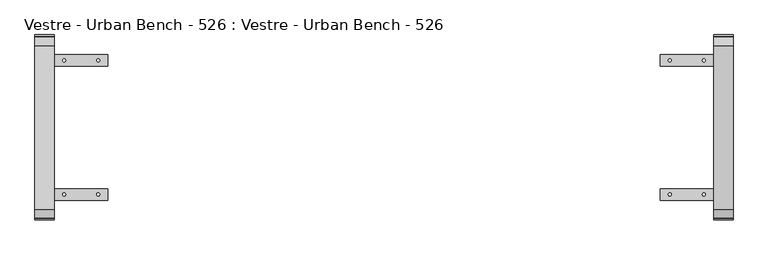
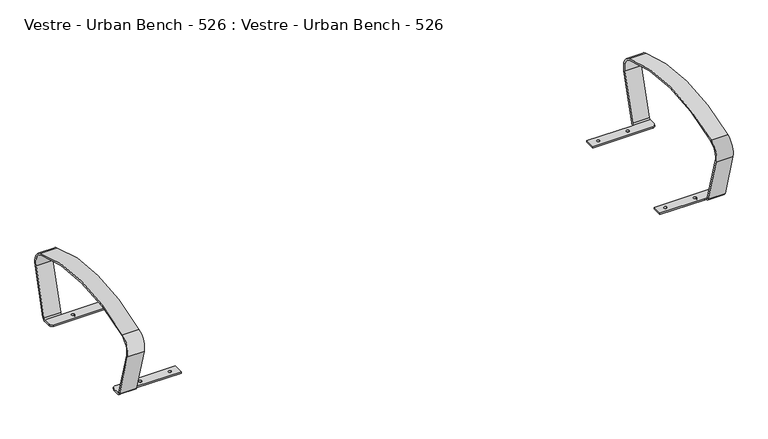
"""IFC4 building model written with IfcOpenShell, lengths in millimetres: furniture geometry, Vestre - Urban Bench - 526 : Vestre - Urban Bench - 526."""

import ifcopenshell
import ifcopenshell.guid

model = None  # the IFC model being written
_history = None  # IfcOwnerHistory: only IFC2X3 demands one
_inside = {}  # id of a spatial element -> (the spatial element, [elements in it])
_under = {}  # id of a project, library or spatial element -> (it, [spatial elements below it])
_declared = {}  # id of a project -> (the project, [libraries it declares])
_typed = {}  # id of a type object -> (the type object, [elements of that type])
_made_of = {}  # id of a material, layer set ... -> (it, [elements and type objects made of it])


def new_model(schema):
    """Start an empty IFC model of exactly this schema.

    Asked for "IFC4X3", IfcOpenShell would pick the latest addendum, in which some entities
    have other attributes; the version numbers below select the first issue.
    IFC2X3 requires an IfcOwnerHistory on every rooted entity: one is made here for all.
    """
    global model, _history
    if schema == "IFC4X3":
        model = ifcopenshell.file(schema_version=(4, 3, 0, 0))
    else:
        model = ifcopenshell.file(schema=schema)
    _inside.clear()
    _under.clear()
    _declared.clear()
    _typed.clear()
    _made_of.clear()
    _history = None
    if model.schema == "IFC2X3":
        org = make("IfcOrganization", Name="unknown")
        user = make(
            "IfcPersonAndOrganization",
            ThePerson=make("IfcPerson", FamilyName="unknown"),
            TheOrganization=org,
        )
        app = make(
            "IfcApplication",
            ApplicationDeveloper=org,
            Version="unknown",
            ApplicationFullName="unknown",
            ApplicationIdentifier="unknown",
        )
        _history = make(
            "IfcOwnerHistory",
            OwningUser=user,
            OwningApplication=app,
            ChangeAction="ADDED",
            CreationDate=0,
        )
    return model


def make(cls, **values):
    """One entity of the class cls with the attributes given. An attribute that is None is left unset."""
    return model.create_entity(
        cls, **{name: value for name, value in values.items() if value is not None}
    )


def rooted(cls, **values):
    """An entity with a GlobalId (a new one), such as an element, a storey or a relation."""
    return make(cls, GlobalId=ifcopenshell.guid.new(), OwnerHistory=_history, **values)


def si_unit(unit_type, name, prefix=None):
    """IfcSIUnit, for example si_unit("LENGTHUNIT", "METRE", prefix="MILLI")."""
    return make("IfcSIUnit", UnitType=unit_type, Prefix=prefix, Name=name)


def assignment(units):
    """IfcUnitAssignment: the units of a project."""
    return None if units is None else make("IfcUnitAssignment", Units=units)


def point(xyz):
    """IfcCartesianPoint."""
    return None if xyz is None else make("IfcCartesianPoint", Coordinates=xyz)


def direction(xyz):
    """IfcDirection."""
    return None if xyz is None else make("IfcDirection", DirectionRatios=xyz)


def frame(location, z_axis=None, x_axis=None):
    """IfcAxis2Placement3D, a coordinate frame: its origin and axes. An axis left out is left unset."""
    return make(
        "IfcAxis2Placement3D",
        Location=point(location),
        Axis=direction(z_axis),
        RefDirection=direction(x_axis),
    )


def origin():
    """The frame at (0, 0, 0) with its axes left unset."""
    return frame((0.0, 0.0, 0.0))


def place(relative_to, where):
    """IfcLocalPlacement: puts the frame where relative to a parent placement (None: the world)."""
    return make(
        "IfcLocalPlacement", PlacementRelTo=relative_to, RelativePlacement=where
    )


def context(
    kind, dimensions, precision=None, world=None, true_north=None, identifier=None
):
    """IfcGeometricRepresentationContext, for example the 3D "Model" context."""
    return make(
        "IfcGeometricRepresentationContext",
        ContextIdentifier=identifier,
        ContextType=kind,
        CoordinateSpaceDimension=dimensions,
        Precision=precision,
        WorldCoordinateSystem=world,
        TrueNorth=true_north,
    )


def project(units=None, contexts=None):
    """IfcProject with its units and contexts."""
    return rooted(
        "IfcProject",
        Name="project",
        RepresentationContexts=contexts,
        UnitsInContext=assignment(units),
    )


def spatial(cls, under=None, at=None, **own):
    """A site, building, storey or space (cls), placed at a placement, below another one or the project."""
    s = rooted(cls, ObjectPlacement=at, **own)
    if under is not None:
        _under.setdefault(under.id(), (under, []))[1].append(s)
    return s


def polyline(points):
    """IfcPolyline through the points."""
    return make("IfcPolyline", Points=[point(p) for p in points])


def circle_curve(where, radius):
    """IfcCircle in the frame where."""
    return make("IfcCircle", Position=where, Radius=radius)


def shape(context_of_items, identifier, shape_type, items):
    """IfcShapeRepresentation: the items that make up one representation, for example the "Body"."""
    return make(
        "IfcShapeRepresentation",
        ContextOfItems=context_of_items,
        RepresentationIdentifier=identifier,
        RepresentationType=shape_type,
        Items=items,
    )


def source(mapping_origin, context_of_items, identifier, shape_type, items):
    """IfcRepresentationMap: a shape defined once, which mapped items show again and again."""
    return make(
        "IfcRepresentationMap",
        MappingOrigin=mapping_origin,
        MappedRepresentation=shape(context_of_items, identifier, shape_type, items),
    )


def transform(
    local_origin,
    x_axis=None,
    y_axis=None,
    z_axis=None,
    scale=None,
    scale2=None,
    scale3=None,
    uniform=True,
):
    """IfcCartesianTransformationOperator3D, or its non-uniform kind. x_axis, y_axis, z_axis: its Axis1, 2, 3."""
    if uniform:
        return make(
            "IfcCartesianTransformationOperator3D",
            Axis1=direction(x_axis),
            Axis2=direction(y_axis),
            LocalOrigin=point(local_origin),
            Scale=scale,
            Axis3=direction(z_axis),
        )
    return make(
        "IfcCartesianTransformationOperator3DnonUniform",
        Axis1=direction(x_axis),
        Axis2=direction(y_axis),
        LocalOrigin=point(local_origin),
        Scale=scale,
        Axis3=direction(z_axis),
        Scale2=scale2,
        Scale3=scale3,
    )


def mapped(mapping_source, mapping_target):
    """IfcMappedItem: shows the shape of a source again, moved by a transform."""
    return make(
        "IfcMappedItem", MappingSource=mapping_source, MappingTarget=mapping_target
    )


def made_of(thing, what):
    """Note that an element or type object is made of a material, layer set ...; save() writes the relation."""
    if what is not None:
        _made_of.setdefault(what.id(), (what, []))[1].append(thing)
    return thing


def element(
    cls,
    number,
    at=None,
    inside=None,
    cuts=None,
    type_object=None,
    material=None,
    context=None,
    identifier="Body",
    shape_type=None,
    held_by="IfcProductDefinitionShape",
    body=None,
    shapes=None,
    **own,
):
    """One element of the class cls, such as IfcWall. Its Tag is "e" and its number.

    at: its placement. inside: the storey or other place that contains it. cuts: it is an
    opening in that element (IfcRelVoidsElement). A single representation is given by context,
    identifier, shape_type and body (its items); several are given by shapes. held_by: the class
    of the entity that holds the representations. save() writes the other relations.
    """
    e = rooted(cls, Tag="e%d" % number, ObjectPlacement=at, **own)
    if body is not None:
        shapes = [shape(context, identifier, shape_type, body)]
    if shapes is not None:
        e.Representation = make(held_by, Representations=shapes)
    if inside is not None:
        _inside.setdefault(inside.id(), (inside, []))[1].append(e)
    if cuts is not None:
        rooted(
            "IfcRelVoidsElement", RelatingBuildingElement=cuts, RelatedOpeningElement=e
        )
    if type_object is not None:
        _typed.setdefault(type_object.id(), (type_object, []))[1].append(e)
    return made_of(e, material)


def aggregate(whole, parts):
    """IfcRelAggregates: a whole, such as a stair, and the parts it consists of."""
    return rooted("IfcRelAggregates", RelatingObject=whole, RelatedObjects=parts)


def save(model, path):
    """Write the relations noted so far, then the file.

    IfcRelAggregates (storeys below a building ...), IfcRelContainedInSpatialStructure (elements
    in a storey), IfcRelDefinesByType, IfcRelAssociatesMaterial and IfcRelDeclares: one each for
    every whole, place, type object, material and project.
    """
    for whole, parts in _under.values():
        aggregate(whole, parts)
    for where, things in _inside.values():
        rooted(
            "IfcRelContainedInSpatialStructure",
            RelatedElements=things,
            RelatingStructure=where,
        )
    for kind, things in _typed.values():
        rooted("IfcRelDefinesByType", RelatedObjects=things, RelatingType=kind)
    for what, things in _made_of.values():
        rooted("IfcRelAssociatesMaterial", RelatedObjects=things, RelatingMaterial=what)
    for by, libraries in _declared.values():
        rooted("IfcRelDeclares", RelatingContext=by, RelatedDefinitions=libraries)
    model.write(path)


def plane_surface(at):
    """IfcPlane: the flat surface through the origin of the frame at, square to its z axis."""
    return make("IfcPlane", Position=at)


def cylinder_surface(at, radius):
    """IfcCylindricalSurface: all points at the distance radius from the z axis of the frame at."""
    return make("IfcCylindricalSurface", Position=at, Radius=radius)


def revolved_surface(curve, axis_point, axis_direction):
    """IfcSurfaceOfRevolution: the curve turned about the line through axis_point along axis_direction."""
    return make(
        "IfcSurfaceOfRevolution",
        SweptCurve=make("IfcArbitraryOpenProfileDef", ProfileType="CURVE", Curve=curve),
        AxisPosition=make("IfcAxis1Placement", Location=point(axis_point), Axis=direction(axis_direction)),
    )


def advanced_brep(points, edges, surfaces, faces):
    """IfcAdvancedBrep: a solid bounded by faces that lie on surfaces and meet in shared edges.

    An edge is (start, end): straight between two places in points (the first is 0);
    or (start, end, curve); or (start, end, curve, False) where it runs against its curve.
    A face is (place in surfaces, loops), or (place, loops, False) where it looks against
    its surface's normal. A loop lists edges by number (the first is 1), with a minus sign
    where the edge is run from its end to its start. The first loop is the outer one.
    """
    corners = [point(p) for p in points]
    vertices = [make("IfcVertexPoint", VertexGeometry=c) for c in corners]
    made = []
    for start, end, *more in edges:
        made.append(
            make(
                "IfcEdgeCurve",
                EdgeStart=vertices[start],
                EdgeEnd=vertices[end],
                EdgeGeometry=more[0] if more else make("IfcPolyline", Points=[corners[start], corners[end]]),
                SameSense=more[1] if len(more) > 1 else True,
            )
        )
    hull = []
    for where, loops, *sense in faces:
        bounds = []
        for j, loop in enumerate(loops):
            ring = [make("IfcOrientedEdge", EdgeElement=made[abs(k) - 1], Orientation=k > 0) for k in loop]
            bounds.append(
                make(
                    "IfcFaceOuterBound" if j == 0 else "IfcFaceBound",
                    Bound=make("IfcEdgeLoop", EdgeList=ring),
                    Orientation=True,
                )
            )
        hull.append(make("IfcAdvancedFace", Bounds=bounds, FaceSurface=surfaces[where], SameSense=sense[0] if sense else True))
    return make("IfcAdvancedBrep", Outer=make("IfcClosedShell", CfsFaces=hull))


def vestre_urban_bench_526_vestre_urban_bench_526_43ba36d0(model_context):
    return source(origin(), model_context, "Body", "AdvancedBrep", [
        advanced_brep(
        [(720.0, 159.9998724, 412.0003662), (900.0, 159.9998724, 412.0003662), (910.0, 169.9998724, 412.0003662), (910.0, 190.1231897, 412.0003662), (860.0, 190.1234449, 412.0003662), (855.0, 190.1231897, 412.0003662), (720.0, 190.1231897, 412.0003662), (749.0142908, 175.0931821, 412.0003662), (741.0142908, 175.0931821, 412.0003662), (837.9750394, 175.0931821, 412.0003662), (829.9750394, 175.0931821, 412.0003662), (720.0, 159.9998724, 407.0003662), (720.0, 190.1231897, 407.0003662), (855.0, 190.1231897, 407.0003662), (860.0, 190.1231897, 407.0003662), (910.0, 190.1234449, 407.0003662), (910.0, 169.9998724, 407.0003662), (900.0, 159.9998724, 407.0003662), (741.0142908, 175.0931821, 407.0003662), (749.0142908, 175.0931821, 407.0003662), (829.9750394, 175.0931821, 407.0003662), (837.9750394, 175.0931821, 407.0003662), (910.0, 199.7379838, 414.2507042), (910.0, 240.2655528, 555.9604443), (910.0, 213.6012512, 610.159785), (910.0, -213.600996, 610.159785), (910.0, -240.2652976, 555.9604443), (910.0, -199.7377286, 414.2507042), (910.0, -190.1231897, 407.0003662), (910.0, -169.9998724, 407.0003662), (910.0, -169.9998724, 412.0003662), (910.0, -190.1231897, 412.0003662), (910.0, -194.9304591, 415.6255352), (910.0, -235.4580281, 557.3352754), (910.0, -211.7564267, 605.512467), (910.0, 211.7566819, 605.512467), (910.0, 235.4582833, 557.3352754), (910.0, 194.9307143, 415.6255352), (741.0142908, -175.0931821, 407.0003662), (741.0142908, -175.0931821, 412.0), (749.0142908, -175.0931821, 412.0003662), (749.0142908, -175.0931821, 407.0003662), (829.9750394, -175.0931821, 407.0003662), (829.9750394, -175.0931821, 412.0), (837.9750394, -175.0931821, 412.0003662), (837.9750394, -175.0931821, 407.0003662), (860.0, 235.4582833, 557.3352754), (860.0, 211.7566819, 605.512467), (860.0, -211.7564267, 605.512467), (860.0, -235.4580281, 557.3352754), (860.0, -194.9304591, 415.6255352), (860.0, -190.1231897, 412.0003662), (860.0, -190.1231897, 407.0003662), (860.0, -199.7377286, 414.2507042), (860.0, -240.2652976, 555.9604443), (860.0, -213.600996, 610.159785), (860.0, 213.6012512, 610.159785), (860.0, 240.2655528, 555.9604443), (860.0, 199.7379838, 414.2507042), (860.0, 194.9307143, 415.6255352), (720.0, -159.9998724, 412.0003662), (720.0, -190.1231897, 412.0003662), (855.0, -190.1231897, 412.0003662), (900.0, -159.9998724, 412.0003662), (720.0, -159.9998724, 407.0003662), (900.0, -159.9998724, 407.0003662), (855.0, -190.1231897, 407.0003662), (720.0, -190.1231897, 407.0003662)],
        [
            (0, 1),
            (1, 2, circle_curve(frame((900.0, 169.9998724, 412.0003662), z_axis=(0.0, 0.0, 1.0), x_axis=(1.0, 0.0, 0.0)), 10.0)),
            (2, 3),
            (3, 4),
            (4, 5),
            (5, 6),
            (6, 0),
            (7, 8, circle_curve(frame((745.0142908, 175.0931821, 412.0003662), z_axis=(0.0, 0.0, -1.0), x_axis=(-1.0, 0.0, 0.0)), 4.0)),
            (8, 7, circle_curve(frame((745.0142908, 175.0931821, 412.0003662), z_axis=(0.0, 0.0, -1.0), x_axis=(-1.0, 0.0, 0.0)), 4.0)),
            (9, 10, circle_curve(frame((833.9750394, 175.0931821, 412.0003662), z_axis=(0.0, 0.0, -1.0), x_axis=(-1.0, 0.0, 0.0)), 4.0)),
            (10, 9, circle_curve(frame((833.9750394, 175.0931821, 412.0003662), z_axis=(0.0, 0.0, -1.0), x_axis=(-1.0, 0.0, 0.0)), 4.0)),
            (11, 12),
            (12, 13),
            (13, 14),
            (14, 15),
            (15, 16),
            (16, 17, circle_curve(frame((900.0, 169.9998724, 407.0003662), z_axis=(0.0, 0.0, -1.0), x_axis=(1.0, 0.0, 0.0)), 10.0)),
            (17, 11),
            (18, 19, circle_curve(frame((745.0142908, 175.0931821, 407.0003662), z_axis=(0.0, 0.0, 1.0), x_axis=(-1.0, 0.0, 0.0)), 4.0)),
            (19, 18, circle_curve(frame((745.0142908, 175.0931821, 407.0003662), z_axis=(0.0, 0.0, 1.0), x_axis=(-1.0, 0.0, 0.0)), 4.0)),
            (20, 21, circle_curve(frame((833.9750394, 175.0931821, 407.0003662), z_axis=(0.0, 0.0, 1.0), x_axis=(-1.0, 0.0, 0.0)), 4.0)),
            (21, 20, circle_curve(frame((833.9750394, 175.0931821, 407.0003662), z_axis=(0.0, 0.0, 1.0), x_axis=(-1.0, 0.0, 0.0)), 4.0)),
            (0, 11),
            (17, 1),
            (16, 2),
            (15, 22, circle_curve(frame((910.0, 190.1234449, 417.0003662), z_axis=(1.0, 0.0, 0.0), x_axis=(0.0, 0.961453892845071, -0.2749662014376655)), 10.0)),
            (22, 23),
            (23, 24, circle_curve(frame((910.0, 197.0001276, 568.3339234), z_axis=(1.0, 0.0, 0.0), x_axis=(0.0, 0.3689138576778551, 0.9294635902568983)), 45.0)),
            (24, 25, circle_curve(frame((910.0, 0.0001276, 72.0003662), z_axis=(1.0, 0.0, 0.0), x_axis=(0.0, -0.36891385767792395, 0.929463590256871)), 579.0)),
            (25, 26, circle_curve(frame((910.0, -196.9998724, 568.3339234), z_axis=(1.0, 0.0, 0.0), x_axis=(0.0, -0.9614538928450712, -0.2749662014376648)), 45.0)),
            (26, 27),
            (27, 28, circle_curve(frame((910.0, -190.1231897, 417.0003662), z_axis=(1.0, 0.0, 0.0), x_axis=(0.0, 0.0, -1.0)), 10.0)),
            (28, 29),
            (29, 30),
            (30, 31),
            (31, 32, circle_curve(frame((910.0, -190.1231897, 417.0003662), z_axis=(-1.0, 0.0, 0.0), x_axis=(0.0, 0.0, -1.0)), 5.0)),
            (32, 33),
            (33, 34, circle_curve(frame((910.0, -196.9998724, 568.3339234), z_axis=(-1.0, 0.0, 0.0), x_axis=(0.0, -0.9614538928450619, -0.27496620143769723)), 40.0)),
            (34, 35, circle_curve(frame((910.0, 0.0001276, 72.0003662), z_axis=(-1.0, 0.0, 0.0), x_axis=(0.0, -0.36891385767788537, 0.9294635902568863)), 574.0)),
            (35, 36, circle_curve(frame((910.0, 197.0001276, 568.3339234), z_axis=(-1.0, 0.0, 0.0), x_axis=(0.0, 0.36891385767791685, 0.9294635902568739)), 40.0)),
            (36, 37),
            (37, 3, circle_curve(frame((910.0, 190.1234449, 417.0003662), z_axis=(-1.0, 0.0, 0.0), x_axis=(0.0, 0.961453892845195, -0.27496620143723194)), 5.0)),
            (13, 5),
            (4, 14),
            (12, 6),
            (38, 39),
            (39, 40, circle_curve(frame((745.0142908, -175.0931821, 412.0003662), z_axis=(0.0, 0.0, 1.0), x_axis=(-1.0, 0.0, 0.0)), 4.0)),
            (40, 41),
            (41, 38, circle_curve(frame((745.0142908, -175.0931821, 407.0003662), z_axis=(0.0, 0.0, -1.0), x_axis=(-1.0, 0.0, 0.0)), 4.0)),
            (38, 41, circle_curve(frame((745.0142908, -175.0931821, 407.0003662), z_axis=(0.0, 0.0, -1.0), x_axis=(-1.0, 0.0, 0.0)), 4.0)),
            (40, 39, circle_curve(frame((745.0142908, -175.0931821, 412.0003662), z_axis=(0.0, 0.0, 1.0), x_axis=(-1.0, 0.0, 0.0)), 4.0)),
            (42, 43),
            (43, 44, circle_curve(frame((833.9750394, -175.0931821, 412.0003662), z_axis=(0.0, 0.0, 1.0), x_axis=(-1.0, 0.0, 0.0)), 4.0)),
            (44, 45),
            (45, 42, circle_curve(frame((833.9750394, -175.0931821, 407.0003662), z_axis=(0.0, 0.0, -1.0), x_axis=(-1.0, 0.0, 0.0)), 4.0)),
            (42, 45, circle_curve(frame((833.9750394, -175.0931821, 407.0003662), z_axis=(0.0, 0.0, -1.0), x_axis=(-1.0, 0.0, 0.0)), 4.0)),
            (44, 43, circle_curve(frame((833.9750394, -175.0931821, 412.0003662), z_axis=(0.0, 0.0, 1.0), x_axis=(-1.0, 0.0, 0.0)), 4.0)),
            (18, 8),
            (7, 19),
            (20, 10),
            (9, 21),
            (46, 47, circle_curve(frame((860.0, 197.0001276, 568.3339234), z_axis=(1.0, 0.0, 0.0), x_axis=(0.0, 0.36891385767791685, 0.9294635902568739)), 40.0)),
            (47, 48, circle_curve(frame((860.0, 0.0001276, 72.0003662), z_axis=(1.0, 0.0, 0.0), x_axis=(0.0, -0.36891385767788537, 0.9294635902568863)), 574.0)),
            (48, 49, circle_curve(frame((860.0, -196.9998724, 568.3339234), z_axis=(1.0, 0.0, 0.0), x_axis=(0.0, -0.9614538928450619, -0.27496620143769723)), 40.0)),
            (49, 50),
            (50, 51, circle_curve(frame((860.0, -190.1231897, 417.0003662), z_axis=(1.0, 0.0, 0.0), x_axis=(0.0, 0.0, -1.0)), 5.0)),
            (51, 52),
            (52, 53, circle_curve(frame((860.0, -190.1231897, 417.0003662), z_axis=(-1.0, 0.0, 0.0), x_axis=(0.0, 0.0, -1.0)), 10.0)),
            (53, 54),
            (54, 55, circle_curve(frame((860.0, -196.9998724, 568.3339234), z_axis=(-1.0, 0.0, 0.0), x_axis=(0.0, -0.9614538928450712, -0.2749662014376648)), 45.0)),
            (55, 56, circle_curve(frame((860.0, 0.0001276, 72.0003662), z_axis=(-1.0, 0.0, 0.0), x_axis=(0.0, -0.36891385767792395, 0.929463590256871)), 579.0)),
            (56, 57, circle_curve(frame((860.0, 197.0001276, 568.3339234), z_axis=(-1.0, 0.0, 0.0), x_axis=(0.0, 0.3689138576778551, 0.9294635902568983)), 45.0)),
            (57, 58),
            (58, 14, circle_curve(frame((860.0, 190.1234449, 417.0003662), z_axis=(-1.0, 0.0, 0.0), x_axis=(0.0, 0.961453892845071, -0.2749662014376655)), 10.0)),
            (4, 59, circle_curve(frame((860.0, 190.1234449, 417.0003662), z_axis=(1.0, 0.0, 0.0), x_axis=(0.0, 0.961453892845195, -0.27496620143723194)), 5.0)),
            (59, 46),
            (59, 37),
            (36, 46),
            (58, 22),
            (57, 23),
            (56, 24),
            (55, 25),
            (54, 26),
            (53, 27),
            (52, 28),
            (50, 32),
            (31, 51),
            (49, 33),
            (48, 34),
            (47, 35),
            (60, 61),
            (61, 62),
            (62, 51),
            (30, 63, circle_curve(frame((900.0, -169.9998724, 412.0003662), z_axis=(0.0, 0.0, 1.0), x_axis=(1.0, 0.0, 0.0)), 10.0)),
            (63, 60),
            (64, 65),
            (65, 29, circle_curve(frame((900.0, -169.9998724, 407.0003662), z_axis=(0.0, 0.0, -1.0), x_axis=(1.0, 0.0, 0.0)), 10.0)),
            (52, 66),
            (66, 67),
            (67, 64),
            (63, 65),
            (64, 60),
            (62, 66),
            (61, 67),
        ],
        [
            plane_surface(frame((720.0, 159.9998724, 412.0003662), z_axis=(0.0, 0.0, 1.0), x_axis=(1.0, 0.0, 0.0))),
            plane_surface(frame((720.0, 159.9998724, 407.0003662), z_axis=(0.0, 0.0, -1.0), x_axis=(-1.0, 0.0, 0.0))),
            plane_surface(frame((720.0, 159.9998724, 412.0003662), z_axis=(0.0, -1.0, 0.0), x_axis=(0.0, 0.0, -1.0))),
            cylinder_surface(frame((900.0, 169.9998724, 407.0003662), z_axis=(0.0, 0.0, 1.0), x_axis=(1.0, 0.0, 0.0)), 10.0),
            plane_surface(frame((910.0, 169.9998724, 412.0003662), z_axis=(1.0, 0.0, 0.0), x_axis=(0.0, 0.0, -1.0))),
            plane_surface(frame((910.0, 190.1231897, 412.0003662), z_axis=(0.0, 1.0, 0.0), x_axis=(0.0, 0.0, -1.0))),
            plane_surface(frame((855.0, 190.1231897, 412.0003662), z_axis=(0.0, 1.0, 0.0), x_axis=(0.0, 0.0, -1.0))),
            plane_surface(frame((720.0, 190.1231897, 412.0003662), z_axis=(-1.0, 0.0, 0.0), x_axis=(0.0, 0.0, -1.0))),
            revolved_surface(polyline([(741.0142908, -175.0931821, 412.0003662), (741.0142908, -175.0931821, 407.0003662)]), (745.0142908, -175.0931821, 403.3920941), (0.0, 0.0, 1.0)),
            revolved_surface(polyline([(829.9750394, -175.0931821, 412.0003662), (829.9750394, -175.0931821, 407.0003662)]), (833.9750394, -175.0931821, 0.0), (0.0, 0.0, 1.0)),
            revolved_surface(polyline([(741.0142908, 175.0931821, 412.0003662), (741.0142908, 175.0931821, 407.0003662)]), (745.0142908, 175.0931821, 0.0), (0.0, 0.0, 1.0)),
            revolved_surface(polyline([(829.9750394, 175.0931821, 412.0003662), (829.9750394, 175.0931821, 407.0003662)]), (833.9750394, 175.0931821, 0.0), (0.0, 0.0, 1.0)),
            plane_surface(frame((860.0, 211.7566819, 605.512467), z_axis=(-1.0000000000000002, 0.0, 0.0), x_axis=(0.0, -0.9294635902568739, 0.36891385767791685))),
            plane_surface(frame((860.0, 194.9307143, 415.6255352), z_axis=(0.0, -0.9614538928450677, 0.27496620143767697), x_axis=(1.0, 0.0, 0.0))),
            revolved_surface(polyline([(910.0, 194.930714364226, 415.6255351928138), (860.0, 194.930714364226, 415.6255351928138)]), (910.0, 190.1234449, 417.0003662), (1.0000000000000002, 0.0, 0.0)),
            cylinder_surface(frame((910.0, 190.1234449, 417.0003662), z_axis=(-1.0, 0.0, 0.0), x_axis=(0.0, 0.961453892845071, -0.2749662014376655)), 10.0),
            plane_surface(frame((860.0, 240.2655528, 555.9604443), z_axis=(0.0, 0.96145389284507, -0.2749662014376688), x_axis=(1.0, 0.0, 0.0))),
            cylinder_surface(frame((910.0, 197.0001276, 568.3339234), z_axis=(-1.0, 0.0, 0.0), x_axis=(0.0, 0.3689138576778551, 0.9294635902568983)), 45.0),
            cylinder_surface(frame((910.0, 0.0001276, 72.0003662), z_axis=(-1.0, 0.0, 0.0), x_axis=(0.0, -0.36891385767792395, 0.929463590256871)), 579.0),
            cylinder_surface(frame((910.0, -196.9998724, 568.3339234), z_axis=(-1.0000000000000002, 0.0, 0.0), x_axis=(0.0, -0.9614538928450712, -0.2749662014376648)), 45.0),
            plane_surface(frame((860.0, -199.7377286, 414.2507042), z_axis=(0.0, -0.9614538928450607, -0.2749662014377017), x_axis=(1.0, 0.0, 0.0))),
            cylinder_surface(frame((910.0, -190.1231897, 417.0003662), z_axis=(-1.0, 0.0, 0.0), x_axis=(0.0, 0.0, -1.0)), 10.0),
            revolved_surface(polyline([(910.0, -190.1231897, 412.0003662), (860.0, -190.1231897, 412.0003662)]), (910.0, -190.1231897, 417.0003662), (1.0, 0.0, 0.0)),
            plane_surface(frame((860.0, -235.4580281, 557.3352754), z_axis=(0.0, 0.9614538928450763, 0.27496620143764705), x_axis=(1.0, 0.0, 0.0))),
            revolved_surface(polyline([(910.0, -235.45802811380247, 557.3352753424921), (860.0, -235.45802811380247, 557.3352753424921)]), (910.0, -196.9998724, 568.3339234), (1.0, 0.0, 0.0)),
            revolved_surface(polyline([(910.0, -211.7564267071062, 605.5124670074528), (860.0, -211.7564267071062, 605.5124670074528)]), (910.0, 0.0001276, 72.0003662), (1.0, 0.0, 0.0)),
            revolved_surface(polyline([(910.0, 211.75668190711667, 605.5124670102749), (860.0, 211.75668190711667, 605.5124670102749)]), (910.0, 197.0001276, 568.3339234), (1.0000000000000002, 0.0, 0.0)),
            plane_surface(frame((720.0, -190.1231897, 412.0003662), z_axis=(0.0, 0.0, 1.0), x_axis=(0.0, -1.0, 0.0))),
            plane_surface(frame((720.0, -190.1231897, 407.0003662), z_axis=(0.0, 0.0, -1.0), x_axis=(0.0, 1.0, 0.0))),
            plane_surface(frame((900.0, -159.9998724, 412.0003662), z_axis=(0.0, 1.0, 0.0), x_axis=(0.0, 0.0, -1.0))),
            cylinder_surface(frame((900.0, -169.9998724, 407.0003662), z_axis=(0.0, 0.0, 1.0), x_axis=(1.0, 0.0, 0.0)), 10.0),
            plane_surface(frame((855.0, -190.1231897, 412.0003662), z_axis=(0.0, -1.0, 0.0), x_axis=(0.0, 0.0, -1.0))),
            plane_surface(frame((720.0, -190.1231897, 412.0003662), z_axis=(0.0, -1.0, 0.0), x_axis=(0.0, 0.0, -1.0))),
            plane_surface(frame((720.0, -159.9998724, 412.0003662), z_axis=(-1.0, 0.0, 0.0), x_axis=(0.0, 0.0, -1.0))),
        ],
        [
            (0, [[1, 2, 3, 4, 5, 6, 7], [8, 9], [10, 11]]),
            (1, [[12, 13, 14, 15, 16, 17, 18], [19, 20], [21, 22]]),
            (2, [[-1, 23, -18, 24]]),
            (3, [[-2, -24, -17, 25]]),
            (4, [[-3, -25, -16, 26, 27, 28, 29, 30, 31, 32, 33, 34, 35, 36, 37, 38, 39, 40, 41, 42]]),
            (5, [[43, -5, 44, -14]]),
            (6, [[-6, -43, -13, 45]]),
            (7, [[-7, -45, -12, -23]]),
            (8, [[46, 47, 48, 49]]),
            (8, [[-46, 50, -48, 51]]),
            (9, [[52, 53, 54, 55]]),
            (9, [[-52, 56, -54, 57]]),
            (10, [[58, -8, 59, -19]]),
            (10, [[-58, -20, -59, -9]]),
            (11, [[60, -10, 61, -21]]),
            (11, [[-60, -22, -61, -11]]),
            (12, [[62, 63, 64, 65, 66, 67, 68, 69, 70, 71, 72, 73, 74, -44, 75, 76]]),
            (13, [[-76, 77, -41, 78]]),
            (14, [[-75, -4, -42, -77]]),
            (15, [[-74, 79, -26, -15]]),
            (16, [[-73, 80, -27, -79]]),
            (17, [[-72, 81, -28, -80]]),
            (18, [[-71, 82, -29, -81]]),
            (19, [[-70, 83, -30, -82]]),
            (20, [[-69, 84, -31, -83]]),
            (21, [[-68, 85, -32, -84]]),
            (22, [[-66, 86, -36, 87]]),
            (23, [[-65, 88, -37, -86]]),
            (24, [[-64, 89, -38, -88]]),
            (25, [[-63, 90, -39, -89]]),
            (26, [[-62, -78, -40, -90]]),
            (27, [[91, 92, 93, -87, -35, 94, 95], [-47, -51], [-53, -57]]),
            (28, [[96, 97, -33, -85, 98, 99, 100], [-49, -50], [-55, -56]]),
            (29, [[-95, 101, -96, 102]]),
            (30, [[-94, -34, -97, -101]]),
            (31, [[103, -98, -67, -93]]),
            (32, [[-92, 104, -99, -103]]),
            (33, [[-91, -102, -100, -104]]),
        ],
    ),
        advanced_brep(
        [(-860.0, 235.4582833, 557.3352754), (-860.0, 194.9307143, 415.6255352), (-860.0, 190.1231897, 412.0003662), (-860.0, 190.1231897, 407.0003662), (-860.0, 199.7379838, 414.2507042), (-860.0, 240.2655528, 555.9604443), (-860.0, 213.6012512, 610.159785), (-860.0, -213.600996, 610.159785), (-860.0, -240.2652976, 555.9604443), (-860.0, -199.7377286, 414.2507042), (-860.0, -190.1231897, 407.0003662), (-860.0, -190.1231897, 412.0003662), (-860.0, -194.9304591, 415.6255352), (-860.0, -235.4580281, 557.3352754), (-860.0, -211.7564267, 605.512467), (-860.0, 211.7566819, 605.512467), (-910.0, 235.4582833, 557.3352754), (-910.0, 194.9307143, 415.6255352), (-910.0, 190.1231897, 412.0003662), (-910.0, 190.1234449, 407.0003662), (-910.0, 199.7379838, 414.2507042), (-910.0, 240.2655528, 555.9604443), (-910.0, 213.6012512, 610.159785), (-910.0, -213.600996, 610.159785), (-910.0, -240.2652976, 555.9604443), (-910.0, -199.7377286, 414.2507042), (-910.0, -190.1231897, 407.0003662), (-910.0, -190.1231897, 412.0003662), (-910.0, -194.9304591, 415.6255352), (-910.0, -235.4580281, 557.3352754), (-910.0, -211.7564267, 605.512467), (-910.0, 211.7566819, 605.512467), (-720.0, -159.9998724, 412.0003662), (-900.0, -159.9998724, 412.0003662), (-910.0, -169.9998724, 412.0003662), (-855.0, -190.1231897, 412.0003662), (-720.0, -190.1231897, 412.0003662), (-741.0142908, -175.0931821, 412.0003662), (-749.0142908, -175.0931821, 412.0003662), (-829.9750394, -175.0931821, 412.0003662), (-837.9750394, -175.0931821, 412.0003662), (-720.0, -159.9998724, 407.0003662), (-720.0, -190.1231897, 407.0003662), (-855.0, -190.1231897, 407.0003662), (-910.0, -169.9998724, 407.0003662), (-900.0, -159.9998724, 407.0003662), (-749.0142908, -175.0931821, 407.0003662), (-741.0142908, -175.0931821, 407.0003662), (-837.9750394, -175.0931821, 407.0003662), (-829.9750394, -175.0931821, 407.0003662), (-910.0, 169.9998724, 407.0003662), (-910.0, 169.9998724, 412.0003662), (-720.0, 159.9998724, 412.0003662), (-720.0, 190.1231897, 412.0003662), (-855.0, 190.1231897, 412.0003662), (-900.0, 159.9998724, 412.0003662), (-741.0142908, 175.0931821, 412.0003662), (-749.0142908, 175.0931821, 412.0003662), (-829.9750394, 175.0931821, 412.0003662), (-837.9750394, 175.0931821, 412.0003662), (-720.0, 159.9998724, 407.0003662), (-900.0, 159.9998724, 407.0003662), (-855.0, 190.1231897, 407.0003662), (-720.0, 190.1231897, 407.0003662), (-749.0142908, 175.0931821, 407.0003662), (-741.0142908, 175.0931821, 407.0003662), (-837.9750394, 175.0931821, 407.0003662), (-829.9750394, 175.0931821, 407.0003662)],
        [
            (0, 1),
            (1, 2, circle_curve(frame((-860.0, 190.1234449, 417.0003662), z_axis=(-1.0, 0.0, 0.0), x_axis=(0.0, 0.961453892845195, -0.27496620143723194)), 5.0)),
            (2, 3),
            (3, 4, circle_curve(frame((-860.0, 190.1234449, 417.0003662), z_axis=(1.0, 0.0, 0.0), x_axis=(0.0, 0.961453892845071, -0.2749662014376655)), 10.0)),
            (4, 5),
            (5, 6, circle_curve(frame((-860.0, 197.0001276, 568.3339234), z_axis=(1.0, 0.0, 0.0), x_axis=(0.0, 0.3689138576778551, 0.9294635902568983)), 45.0)),
            (6, 7, circle_curve(frame((-860.0, 0.0001276, 72.0003662), z_axis=(1.0, 0.0, 0.0), x_axis=(0.0, -0.36891385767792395, 0.929463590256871)), 579.0)),
            (7, 8, circle_curve(frame((-860.0, -196.9998724, 568.3339234), z_axis=(1.0, 0.0, 0.0), x_axis=(0.0, -0.9614538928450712, -0.2749662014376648)), 45.0)),
            (8, 9),
            (9, 10, circle_curve(frame((-860.0, -190.1231897, 417.0003662), z_axis=(1.0, 0.0, 0.0), x_axis=(0.0, 0.0, -1.0)), 10.0)),
            (10, 11),
            (11, 12, circle_curve(frame((-860.0, -190.1231897, 417.0003662), z_axis=(-1.0, 0.0, 0.0), x_axis=(0.0, 0.0, -1.0)), 5.0)),
            (12, 13),
            (13, 14, circle_curve(frame((-860.0, -196.9998724, 568.3339234), z_axis=(-1.0, 0.0, 0.0), x_axis=(0.0, -0.9614538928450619, -0.27496620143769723)), 40.0)),
            (14, 15, circle_curve(frame((-860.0, 0.0001276, 72.0003662), z_axis=(-1.0, 0.0, 0.0), x_axis=(0.0, -0.36891385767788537, 0.9294635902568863)), 574.0)),
            (15, 0, circle_curve(frame((-860.0, 197.0001276, 568.3339234), z_axis=(-1.0, 0.0, 0.0), x_axis=(0.0, 0.36891385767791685, 0.9294635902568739)), 40.0)),
            (0, 16),
            (16, 17),
            (17, 1),
            (17, 18, circle_curve(frame((-910.0, 190.1234449, 417.0003662), z_axis=(-1.0, 0.0, 0.0), x_axis=(0.0, 0.961453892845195, -0.27496620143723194)), 5.0)),
            (18, 2),
            (3, 19),
            (19, 20, circle_curve(frame((-910.0, 190.1234449, 417.0003662), z_axis=(1.0, 0.0, 0.0), x_axis=(0.0, 0.961453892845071, -0.2749662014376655)), 10.0)),
            (20, 4),
            (20, 21),
            (21, 5),
            (21, 22, circle_curve(frame((-910.0, 197.0001276, 568.3339234), z_axis=(1.0, 0.0, 0.0), x_axis=(0.0, 0.3689138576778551, 0.9294635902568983)), 45.0)),
            (22, 6),
            (22, 23, circle_curve(frame((-910.0, 0.0001276, 72.0003662), z_axis=(1.0, 0.0, 0.0), x_axis=(0.0, -0.36891385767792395, 0.929463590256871)), 579.0)),
            (23, 7),
            (23, 24, circle_curve(frame((-910.0, -196.9998724, 568.3339234), z_axis=(1.0, 0.0, 0.0), x_axis=(0.0, -0.9614538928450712, -0.2749662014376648)), 45.0)),
            (24, 8),
            (24, 25),
            (25, 9),
            (25, 26, circle_curve(frame((-910.0, -190.1231897, 417.0003662), z_axis=(1.0, 0.0, 0.0), x_axis=(0.0, 0.0, -1.0)), 10.0)),
            (26, 10),
            (11, 27),
            (27, 28, circle_curve(frame((-910.0, -190.1231897, 417.0003662), z_axis=(-1.0, 0.0, 0.0), x_axis=(0.0, 0.0, -1.0)), 5.0)),
            (28, 12),
            (28, 29),
            (29, 13),
            (29, 30, circle_curve(frame((-910.0, -196.9998724, 568.3339234), z_axis=(-1.0, 0.0, 0.0), x_axis=(0.0, -0.9614538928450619, -0.27496620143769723)), 40.0)),
            (30, 14),
            (30, 31, circle_curve(frame((-910.0, 0.0001276, 72.0003662), z_axis=(-1.0, 0.0, 0.0), x_axis=(0.0, -0.36891385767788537, 0.9294635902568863)), 574.0)),
            (31, 15),
            (31, 16, circle_curve(frame((-910.0, 197.0001276, 568.3339234), z_axis=(-1.0, 0.0, 0.0), x_axis=(0.0, 0.36891385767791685, 0.9294635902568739)), 40.0)),
            (32, 33),
            (33, 34, circle_curve(frame((-900.0, -169.9998724, 412.0003662), z_axis=(0.0, 0.0, 1.0), x_axis=(-1.0, 0.0, 0.0)), 10.0)),
            (34, 27),
            (11, 35),
            (35, 36),
            (36, 32),
            (37, 38, circle_curve(frame((-745.0142908, -175.0931821, 412.0003662), z_axis=(0.0, 0.0, -1.0), x_axis=(1.0, 0.0, 0.0)), 4.0)),
            (38, 37, circle_curve(frame((-745.0142908, -175.0931821, 412.0003662), z_axis=(0.0, 0.0, -1.0), x_axis=(1.0, 0.0, 0.0)), 4.0)),
            (39, 40, circle_curve(frame((-833.9750394, -175.0931821, 412.0003662), z_axis=(0.0, 0.0, -1.0), x_axis=(1.0, 0.0, 0.0)), 4.0)),
            (40, 39, circle_curve(frame((-833.9750394, -175.0931821, 412.0003662), z_axis=(0.0, 0.0, -1.0), x_axis=(1.0, 0.0, 0.0)), 4.0)),
            (41, 42),
            (42, 43),
            (43, 10),
            (26, 44),
            (44, 45, circle_curve(frame((-900.0, -169.9998724, 407.0003662), z_axis=(0.0, 0.0, -1.0), x_axis=(-1.0, 0.0, 0.0)), 10.0)),
            (45, 41),
            (46, 47, circle_curve(frame((-745.0142908, -175.0931821, 407.0003662), z_axis=(0.0, 0.0, 1.0), x_axis=(1.0, 0.0, 0.0)), 4.0)),
            (47, 46, circle_curve(frame((-745.0142908, -175.0931821, 407.0003662), z_axis=(0.0, 0.0, 1.0), x_axis=(1.0, 0.0, 0.0)), 4.0)),
            (48, 49, circle_curve(frame((-833.9750394, -175.0931821, 407.0003662), z_axis=(0.0, 0.0, 1.0), x_axis=(1.0, 0.0, 0.0)), 4.0)),
            (49, 48, circle_curve(frame((-833.9750394, -175.0931821, 407.0003662), z_axis=(0.0, 0.0, 1.0), x_axis=(1.0, 0.0, 0.0)), 4.0)),
            (32, 41),
            (45, 33),
            (44, 34),
            (19, 50),
            (50, 51),
            (51, 18),
            (43, 35),
            (42, 36),
            (52, 53),
            (53, 54),
            (54, 2),
            (51, 55, circle_curve(frame((-900.0, 169.9998724, 412.0003662), z_axis=(0.0, 0.0, 1.0), x_axis=(-1.0, 0.0, 0.0)), 10.0)),
            (55, 52),
            (56, 57, circle_curve(frame((-745.0142908, 175.0931821, 412.0003662), z_axis=(0.0, 0.0, -1.0), x_axis=(1.0, 0.0, 0.0)), 4.0)),
            (57, 56, circle_curve(frame((-745.0142908, 175.0931821, 412.0003662), z_axis=(0.0, 0.0, -1.0), x_axis=(1.0, 0.0, 0.0)), 4.0)),
            (58, 59, circle_curve(frame((-833.9750394, 175.0931821, 412.0003662), z_axis=(0.0, 0.0, -1.0), x_axis=(1.0, 0.0, 0.0)), 4.0)),
            (59, 58, circle_curve(frame((-833.9750394, 175.0931821, 412.0003662), z_axis=(0.0, 0.0, -1.0), x_axis=(1.0, 0.0, 0.0)), 4.0)),
            (60, 61),
            (61, 50, circle_curve(frame((-900.0, 169.9998724, 407.0003662), z_axis=(0.0, 0.0, -1.0), x_axis=(-1.0, 0.0, 0.0)), 10.0)),
            (3, 62),
            (62, 63),
            (63, 60),
            (64, 65, circle_curve(frame((-745.0142908, 175.0931821, 407.0003662), z_axis=(0.0, 0.0, 1.0), x_axis=(1.0, 0.0, 0.0)), 4.0)),
            (65, 64, circle_curve(frame((-745.0142908, 175.0931821, 407.0003662), z_axis=(0.0, 0.0, 1.0), x_axis=(1.0, 0.0, 0.0)), 4.0)),
            (66, 67, circle_curve(frame((-833.9750394, 175.0931821, 407.0003662), z_axis=(0.0, 0.0, 1.0), x_axis=(1.0, 0.0, 0.0)), 4.0)),
            (67, 66, circle_curve(frame((-833.9750394, 175.0931821, 407.0003662), z_axis=(0.0, 0.0, 1.0), x_axis=(1.0, 0.0, 0.0)), 4.0)),
            (55, 61),
            (60, 52),
            (54, 62),
            (53, 63),
            (37, 47),
            (46, 38),
            (39, 49),
            (48, 40),
            (56, 65),
            (64, 57),
            (58, 67),
            (66, 59),
        ],
        [
            plane_surface(frame((-860.0, 235.4582833, 557.3352754), z_axis=(1.0, 0.0, 0.0), x_axis=(0.0, -0.27496620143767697, -0.9614538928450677))),
            plane_surface(frame((-860.0, 235.4582833, 557.3352754), z_axis=(0.0, -0.9614538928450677, 0.27496620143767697), x_axis=(-1.0, 0.0, 0.0))),
            revolved_surface(polyline([(-910.0, 194.930714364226, 415.6255351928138), (-860.0, 194.930714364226, 415.6255351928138)]), (-910.0, 190.1234449, 417.0003662), (-1.0000000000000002, 0.0, 0.0)),
            cylinder_surface(frame((-910.0, 190.1234449, 417.0003662), z_axis=(1.0, 0.0, 0.0), x_axis=(0.0, 0.961453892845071, -0.2749662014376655)), 10.0),
            plane_surface(frame((-860.0, 199.7379838, 414.2507042), z_axis=(0.0, 0.96145389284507, -0.2749662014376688), x_axis=(-1.0, 0.0, 0.0))),
            cylinder_surface(frame((-910.0, 197.0001276, 568.3339234), z_axis=(1.0, 0.0, 0.0), x_axis=(0.0, 0.3689138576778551, 0.9294635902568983)), 45.0),
            cylinder_surface(frame((-910.0, 0.0001276, 72.0003662), z_axis=(1.0, 0.0, 0.0), x_axis=(0.0, -0.36891385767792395, 0.929463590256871)), 579.0),
            cylinder_surface(frame((-910.0, -196.9998724, 568.3339234), z_axis=(1.0000000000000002, 0.0, 0.0), x_axis=(0.0, -0.9614538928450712, -0.2749662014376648)), 45.0),
            plane_surface(frame((-860.0, -240.2652976, 555.9604443), z_axis=(0.0, -0.9614538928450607, -0.2749662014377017), x_axis=(-1.0, 0.0, 0.0))),
            cylinder_surface(frame((-910.0, -190.1231897, 417.0003662), z_axis=(1.0, 0.0, 0.0), x_axis=(0.0, 0.0, -1.0)), 10.0),
            revolved_surface(polyline([(-910.0, -190.1231897, 412.0003662), (-860.0, -190.1231897, 412.0003662)]), (-910.0, -190.1231897, 417.0003662), (-1.0, 0.0, 0.0)),
            plane_surface(frame((-860.0, -194.9304591, 415.6255352), z_axis=(0.0, 0.9614538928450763, 0.27496620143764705), x_axis=(-1.0, 0.0, 0.0))),
            revolved_surface(polyline([(-910.0, -235.45802811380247, 557.3352753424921), (-860.0, -235.45802811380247, 557.3352753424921)]), (-910.0, -196.9998724, 568.3339234), (-1.0, 0.0, 0.0)),
            revolved_surface(polyline([(-910.0, -211.7564267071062, 605.5124670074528), (-860.0, -211.7564267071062, 605.5124670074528)]), (-910.0, 0.0001276, 72.0003662), (-1.0, 0.0, 0.0)),
            revolved_surface(polyline([(-910.0, 211.75668190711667, 605.5124670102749), (-860.0, 211.75668190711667, 605.5124670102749)]), (-910.0, 197.0001276, 568.3339234), (-1.0000000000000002, 0.0, 0.0)),
            plane_surface(frame((-720.0, -159.9998724, 412.0003662), z_axis=(0.0, 0.0, 1.0), x_axis=(-1.0, 0.0, 0.0))),
            plane_surface(frame((-720.0, -159.9998724, 407.0003662), z_axis=(0.0, 0.0, -1.0), x_axis=(1.0, 0.0, 0.0))),
            plane_surface(frame((-720.0, -159.9998724, 412.0003662), z_axis=(0.0, 1.0, 0.0), x_axis=(0.0, 0.0, -1.0))),
            cylinder_surface(frame((-900.0, -169.9998724, 407.0003662), z_axis=(0.0, 0.0, 1.0), x_axis=(-1.0, 0.0, 0.0)), 10.0),
            plane_surface(frame((-910.0, -169.9998724, 412.0003662), z_axis=(-1.0, 0.0, 0.0), x_axis=(0.0, 0.0, -1.0))),
            plane_surface(frame((-910.0, -190.1231897, 412.0003662), z_axis=(0.0, -1.0, 0.0), x_axis=(0.0, 0.0, -1.0))),
            plane_surface(frame((-855.0, -190.1231897, 412.0003662), z_axis=(0.0, -1.0, 0.0), x_axis=(0.0, 0.0, -1.0))),
            plane_surface(frame((-720.0, -190.1231897, 412.0003662), z_axis=(1.0, 0.0, 0.0), x_axis=(0.0, 0.0, -1.0))),
            plane_surface(frame((-720.0, 190.1231897, 412.0003662), z_axis=(0.0, 0.0, 1.0), x_axis=(0.0, 1.0, 0.0))),
            plane_surface(frame((-720.0, 190.1231897, 407.0003662), z_axis=(0.0, 0.0, -1.0), x_axis=(0.0, -1.0, 0.0))),
            plane_surface(frame((-900.0, 159.9998724, 412.0003662), z_axis=(0.0, -1.0, 0.0), x_axis=(0.0, 0.0, -1.0))),
            cylinder_surface(frame((-900.0, 169.9998724, 407.0003662), z_axis=(0.0, 0.0, 1.0), x_axis=(-1.0, 0.0, 0.0)), 10.0),
            plane_surface(frame((-855.0, 190.1231897, 412.0003662), z_axis=(0.0, 1.0, 0.0), x_axis=(0.0, 0.0, -1.0))),
            plane_surface(frame((-720.0, 190.1231897, 412.0003662), z_axis=(0.0, 1.0, 0.0), x_axis=(0.0, 0.0, -1.0))),
            plane_surface(frame((-720.0, 159.9998724, 412.0003662), z_axis=(1.0, 0.0, 0.0), x_axis=(0.0, 0.0, -1.0))),
            revolved_surface(polyline([(-741.0142908, -175.0931821, 412.0003662), (-741.0142908, -175.0931821, 407.0003662)]), (-745.0142908, -175.0931821, 407.0003662), (0.0, 0.0, 1.0)),
            revolved_surface(polyline([(-829.9750394, -175.0931821, 412.0003662), (-829.9750394, -175.0931821, 407.0003662)]), (-833.9750394, -175.0931821, 0.0), (0.0, 0.0, 1.0)),
            revolved_surface(polyline([(-741.0142908, 175.0931821, 412.0003662), (-741.0142908, 175.0931821, 407.0003662)]), (-745.0142908, 175.0931821, 0.0), (0.0, 0.0, 1.0)),
            revolved_surface(polyline([(-829.9750394, 175.0931821, 412.0003662), (-829.9750394, 175.0931821, 407.0003662)]), (-833.9750394, 175.0931821, 0.0), (0.0, 0.0, 1.0)),
        ],
        [
            (0, [[1, 2, 3, 4, 5, 6, 7, 8, 9, 10, 11, 12, 13, 14, 15, 16]]),
            (1, [[-1, 17, 18, 19]]),
            (2, [[-2, -19, 20, 21]]),
            (3, [[-4, 22, 23, 24]]),
            (4, [[-5, -24, 25, 26]]),
            (5, [[-6, -26, 27, 28]]),
            (6, [[-7, -28, 29, 30]]),
            (7, [[-8, -30, 31, 32]]),
            (8, [[-9, -32, 33, 34]]),
            (9, [[-10, -34, 35, 36]]),
            (10, [[-12, 37, 38, 39]]),
            (11, [[-13, -39, 40, 41]]),
            (12, [[-14, -41, 42, 43]]),
            (13, [[-15, -43, 44, 45]]),
            (14, [[-16, -45, 46, -17]]),
            (15, [[47, 48, 49, -37, 50, 51, 52], [53, 54], [55, 56]]),
            (16, [[57, 58, 59, -36, 60, 61, 62], [63, 64], [65, 66]]),
            (17, [[-47, 67, -62, 68]]),
            (18, [[-48, -68, -61, 69]]),
            (19, [[-49, -69, -60, -35, -33, -31, -29, -27, -25, -23, 70, 71, 72, -20, -18, -46, -44, -42, -40, -38]]),
            (20, [[73, -50, -11, -59]]),
            (21, [[-51, -73, -58, 74]]),
            (22, [[-52, -74, -57, -67]]),
            (23, [[75, 76, 77, -21, -72, 78, 79], [80, 81], [82, 83]]),
            (24, [[84, 85, -70, -22, 86, 87, 88], [89, 90], [91, 92]]),
            (25, [[-79, 93, -84, 94]]),
            (26, [[-78, -71, -85, -93]]),
            (27, [[95, -86, -3, -77]]),
            (28, [[-76, 96, -87, -95]]),
            (29, [[-75, -94, -88, -96]]),
            (30, [[97, -63, 98, -53]]),
            (30, [[-97, -54, -98, -64]]),
            (31, [[99, -65, 100, -55]]),
            (31, [[-99, -56, -100, -66]]),
            (32, [[101, -89, 102, -80]]),
            (32, [[-101, -81, -102, -90]]),
            (33, [[103, -91, 104, -82]]),
            (33, [[-103, -83, -104, -92]]),
        ],
    ),
    ])


if __name__ == "__main__":
    model = new_model("IFC4")
    model_context = context("Model", 3, world=origin())
    ifc_project = project(units=[si_unit("LENGTHUNIT", "METRE", prefix="MILLI")], contexts=[model_context])
    site = spatial("IfcSite", under=ifc_project)
    building = spatial("IfcBuilding", under=site)
    placement = place(None, origin())
    vestre_urban_bench_526_vestre_urban_bench_526_shape = vestre_urban_bench_526_vestre_urban_bench_526_43ba36d0(model_context)
    element("IfcFurniture", 1, ObjectType="Vestre - Urban Bench - 526 : Vestre - Urban Bench - 526", at=placement, inside=building, context=model_context, shape_type="MappedRepresentation", body=[
        mapped(vestre_urban_bench_526_vestre_urban_bench_526_shape, transform((0.0, 0.0, 0.0), x_axis=(1.0, 0.0, 0.0), y_axis=(0.0, 1.0, 0.0), z_axis=(0.0, 0.0, 1.0))),
    ])
    save(model, "model.ifc")
